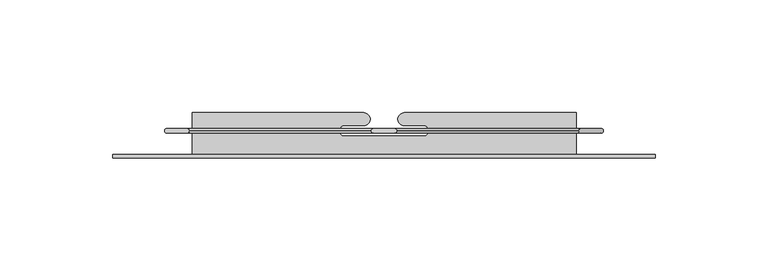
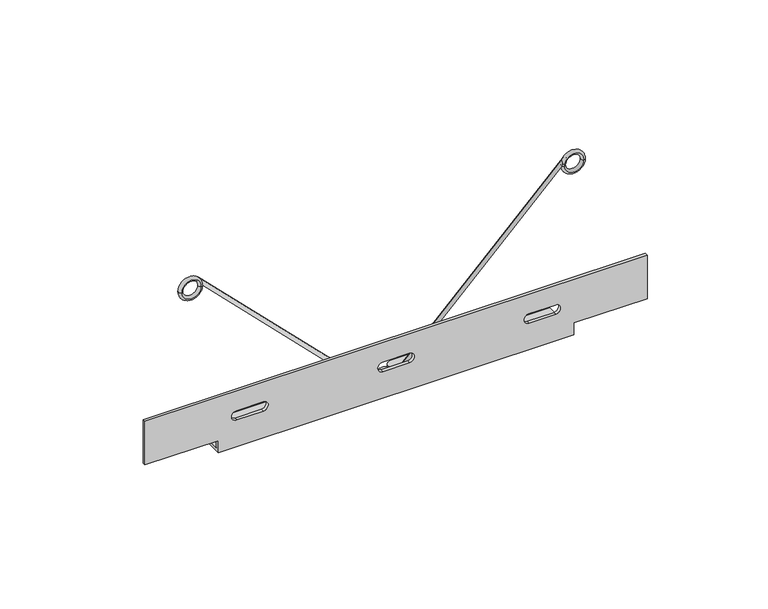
"""IFC4 building model written with IfcOpenShell, lengths in millimetres: proxy geometry, Agilis Panel Springs_Installed : Agilis Panel Springs_Installed."""

import ifcopenshell
import ifcopenshell.guid

model = None  # the IFC model being written
_history = None  # IfcOwnerHistory: only IFC2X3 demands one
_inside = {}  # id of a spatial element -> (the spatial element, [elements in it])
_under = {}  # id of a project, library or spatial element -> (it, [spatial elements below it])
_declared = {}  # id of a project -> (the project, [libraries it declares])
_typed = {}  # id of a type object -> (the type object, [elements of that type])
_made_of = {}  # id of a material, layer set ... -> (it, [elements and type objects made of it])


def new_model(schema):
    """Start an empty IFC model of exactly this schema.

    Asked for "IFC4X3", IfcOpenShell would pick the latest addendum, in which some entities
    have other attributes; the version numbers below select the first issue.
    IFC2X3 requires an IfcOwnerHistory on every rooted entity: one is made here for all.
    """
    global model, _history
    if schema == "IFC4X3":
        model = ifcopenshell.file(schema_version=(4, 3, 0, 0))
    else:
        model = ifcopenshell.file(schema=schema)
    _inside.clear()
    _under.clear()
    _declared.clear()
    _typed.clear()
    _made_of.clear()
    _history = None
    if model.schema == "IFC2X3":
        org = make("IfcOrganization", Name="unknown")
        user = make(
            "IfcPersonAndOrganization",
            ThePerson=make("IfcPerson", FamilyName="unknown"),
            TheOrganization=org,
        )
        app = make(
            "IfcApplication",
            ApplicationDeveloper=org,
            Version="unknown",
            ApplicationFullName="unknown",
            ApplicationIdentifier="unknown",
        )
        _history = make(
            "IfcOwnerHistory",
            OwningUser=user,
            OwningApplication=app,
            ChangeAction="ADDED",
            CreationDate=0,
        )
    return model


def make(cls, **values):
    """One entity of the class cls with the attributes given. An attribute that is None is left unset."""
    return model.create_entity(
        cls, **{name: value for name, value in values.items() if value is not None}
    )


def rooted(cls, **values):
    """An entity with a GlobalId (a new one), such as an element, a storey or a relation."""
    return make(cls, GlobalId=ifcopenshell.guid.new(), OwnerHistory=_history, **values)


def si_unit(unit_type, name, prefix=None):
    """IfcSIUnit, for example si_unit("LENGTHUNIT", "METRE", prefix="MILLI")."""
    return make("IfcSIUnit", UnitType=unit_type, Prefix=prefix, Name=name)


def assignment(units):
    """IfcUnitAssignment: the units of a project."""
    return None if units is None else make("IfcUnitAssignment", Units=units)


def point(xyz):
    """IfcCartesianPoint."""
    return None if xyz is None else make("IfcCartesianPoint", Coordinates=xyz)


def direction(xyz):
    """IfcDirection."""
    return None if xyz is None else make("IfcDirection", DirectionRatios=xyz)


def frame(location, z_axis=None, x_axis=None):
    """IfcAxis2Placement3D, a coordinate frame: its origin and axes. An axis left out is left unset."""
    return make(
        "IfcAxis2Placement3D",
        Location=point(location),
        Axis=direction(z_axis),
        RefDirection=direction(x_axis),
    )


def frame_2d(location, x_axis=None):
    """IfcAxis2Placement2D, a coordinate frame in the plane: its origin and x axis."""
    return make(
        "IfcAxis2Placement2D", Location=point(location), RefDirection=direction(x_axis)
    )


def origin():
    """The frame at (0, 0, 0) with its axes left unset."""
    return frame((0.0, 0.0, 0.0))


def place(relative_to, where):
    """IfcLocalPlacement: puts the frame where relative to a parent placement (None: the world)."""
    return make(
        "IfcLocalPlacement", PlacementRelTo=relative_to, RelativePlacement=where
    )


def context(
    kind, dimensions, precision=None, world=None, true_north=None, identifier=None
):
    """IfcGeometricRepresentationContext, for example the 3D "Model" context."""
    return make(
        "IfcGeometricRepresentationContext",
        ContextIdentifier=identifier,
        ContextType=kind,
        CoordinateSpaceDimension=dimensions,
        Precision=precision,
        WorldCoordinateSystem=world,
        TrueNorth=true_north,
    )


def project(units=None, contexts=None):
    """IfcProject with its units and contexts."""
    return rooted(
        "IfcProject",
        Name="project",
        RepresentationContexts=contexts,
        UnitsInContext=assignment(units),
    )


def spatial(cls, under=None, at=None, **own):
    """A site, building, storey or space (cls), placed at a placement, below another one or the project."""
    s = rooted(cls, ObjectPlacement=at, **own)
    if under is not None:
        _under.setdefault(under.id(), (under, []))[1].append(s)
    return s


def polyline(points):
    """IfcPolyline through the points."""
    return make("IfcPolyline", Points=[point(p) for p in points])


def circle_curve(where, radius):
    """IfcCircle in the frame where."""
    return make("IfcCircle", Position=where, Radius=radius)


def ellipse_curve(where, semi_axis1, semi_axis2):
    """IfcEllipse in the frame where."""
    return make(
        "IfcEllipse", Position=where, SemiAxis1=semi_axis1, SemiAxis2=semi_axis2
    )


def trimmed(basis, trim1, trim2, sense, master):
    """IfcTrimmedCurve: the piece of a basis curve between two trims."""
    return make(
        "IfcTrimmedCurve",
        BasisCurve=basis,
        Trim1=trim1,
        Trim2=trim2,
        SenseAgreement=sense,
        MasterRepresentation=master,
    )


def segment(curve, same_sense, transition):
    """IfcCompositeCurveSegment."""
    return make(
        "IfcCompositeCurveSegment",
        Transition=transition,
        SameSense=same_sense,
        ParentCurve=curve,
    )


def composite_curve(segments, self_intersect=None):
    """IfcCompositeCurve: segments joined end to end."""
    return make("IfcCompositeCurve", Segments=segments, SelfIntersect=self_intersect)


def outline(outer, holes=None, kind="AREA"):
    """IfcArbitraryClosedProfileDef: a profile drawn as a closed curve; with holes, ...WithVoids."""
    if holes is None:
        return make("IfcArbitraryClosedProfileDef", ProfileType=kind, OuterCurve=outer)
    return make(
        "IfcArbitraryProfileDefWithVoids",
        ProfileType=kind,
        OuterCurve=outer,
        InnerCurves=holes,
    )


def extrude(swept, where, along, depth):
    """IfcExtrudedAreaSolid: the profile swept, set in the frame where, extruded along a direction by depth."""
    return make(
        "IfcExtrudedAreaSolid",
        SweptArea=swept,
        Position=where,
        ExtrudedDirection=direction(along),
        Depth=depth,
    )


def shape(context_of_items, identifier, shape_type, items):
    """IfcShapeRepresentation: the items that make up one representation, for example the "Body"."""
    return make(
        "IfcShapeRepresentation",
        ContextOfItems=context_of_items,
        RepresentationIdentifier=identifier,
        RepresentationType=shape_type,
        Items=items,
    )


def source(mapping_origin, context_of_items, identifier, shape_type, items):
    """IfcRepresentationMap: a shape defined once, which mapped items show again and again."""
    return make(
        "IfcRepresentationMap",
        MappingOrigin=mapping_origin,
        MappedRepresentation=shape(context_of_items, identifier, shape_type, items),
    )


def transform(
    local_origin,
    x_axis=None,
    y_axis=None,
    z_axis=None,
    scale=None,
    scale2=None,
    scale3=None,
    uniform=True,
):
    """IfcCartesianTransformationOperator3D, or its non-uniform kind. x_axis, y_axis, z_axis: its Axis1, 2, 3."""
    if uniform:
        return make(
            "IfcCartesianTransformationOperator3D",
            Axis1=direction(x_axis),
            Axis2=direction(y_axis),
            LocalOrigin=point(local_origin),
            Scale=scale,
            Axis3=direction(z_axis),
        )
    return make(
        "IfcCartesianTransformationOperator3DnonUniform",
        Axis1=direction(x_axis),
        Axis2=direction(y_axis),
        LocalOrigin=point(local_origin),
        Scale=scale,
        Axis3=direction(z_axis),
        Scale2=scale2,
        Scale3=scale3,
    )


def mapped(mapping_source, mapping_target):
    """IfcMappedItem: shows the shape of a source again, moved by a transform."""
    return make(
        "IfcMappedItem", MappingSource=mapping_source, MappingTarget=mapping_target
    )


def made_of(thing, what):
    """Note that an element or type object is made of a material, layer set ...; save() writes the relation."""
    if what is not None:
        _made_of.setdefault(what.id(), (what, []))[1].append(thing)
    return thing


def element(
    cls,
    number,
    at=None,
    inside=None,
    cuts=None,
    type_object=None,
    material=None,
    context=None,
    identifier="Body",
    shape_type=None,
    held_by="IfcProductDefinitionShape",
    body=None,
    shapes=None,
    **own,
):
    """One element of the class cls, such as IfcWall. Its Tag is "e" and its number.

    at: its placement. inside: the storey or other place that contains it. cuts: it is an
    opening in that element (IfcRelVoidsElement). A single representation is given by context,
    identifier, shape_type and body (its items); several are given by shapes. held_by: the class
    of the entity that holds the representations. save() writes the other relations.
    """
    e = rooted(cls, Tag="e%d" % number, ObjectPlacement=at, **own)
    if body is not None:
        shapes = [shape(context, identifier, shape_type, body)]
    if shapes is not None:
        e.Representation = make(held_by, Representations=shapes)
    if inside is not None:
        _inside.setdefault(inside.id(), (inside, []))[1].append(e)
    if cuts is not None:
        rooted(
            "IfcRelVoidsElement", RelatingBuildingElement=cuts, RelatedOpeningElement=e
        )
    if type_object is not None:
        _typed.setdefault(type_object.id(), (type_object, []))[1].append(e)
    return made_of(e, material)


def aggregate(whole, parts):
    """IfcRelAggregates: a whole, such as a stair, and the parts it consists of."""
    return rooted("IfcRelAggregates", RelatingObject=whole, RelatedObjects=parts)


def save(model, path):
    """Write the relations noted so far, then the file.

    IfcRelAggregates (storeys below a building ...), IfcRelContainedInSpatialStructure (elements
    in a storey), IfcRelDefinesByType, IfcRelAssociatesMaterial and IfcRelDeclares: one each for
    every whole, place, type object, material and project.
    """
    for whole, parts in _under.values():
        aggregate(whole, parts)
    for where, things in _inside.values():
        rooted(
            "IfcRelContainedInSpatialStructure",
            RelatedElements=things,
            RelatingStructure=where,
        )
    for kind, things in _typed.values():
        rooted("IfcRelDefinesByType", RelatedObjects=things, RelatingType=kind)
    for what, things in _made_of.values():
        rooted("IfcRelAssociatesMaterial", RelatedObjects=things, RelatingMaterial=what)
    for by, libraries in _declared.values():
        rooted("IfcRelDeclares", RelatingContext=by, RelatedDefinitions=libraries)
    model.write(path)


def plane_surface(at):
    """IfcPlane: the flat surface through the origin of the frame at, square to its z axis."""
    return make("IfcPlane", Position=at)


def cylinder_surface(at, radius):
    """IfcCylindricalSurface: all points at the distance radius from the z axis of the frame at."""
    return make("IfcCylindricalSurface", Position=at, Radius=radius)


def revolved_surface(curve, axis_point, axis_direction):
    """IfcSurfaceOfRevolution: the curve turned about the line through axis_point along axis_direction."""
    return make(
        "IfcSurfaceOfRevolution",
        SweptCurve=make("IfcArbitraryOpenProfileDef", ProfileType="CURVE", Curve=curve),
        AxisPosition=make("IfcAxis1Placement", Location=point(axis_point), Axis=direction(axis_direction)),
    )


def advanced_brep(points, edges, surfaces, faces):
    """IfcAdvancedBrep: a solid bounded by faces that lie on surfaces and meet in shared edges.

    An edge is (start, end): straight between two places in points (the first is 0);
    or (start, end, curve); or (start, end, curve, False) where it runs against its curve.
    A face is (place in surfaces, loops), or (place, loops, False) where it looks against
    its surface's normal. A loop lists edges by number (the first is 1), with a minus sign
    where the edge is run from its end to its start. The first loop is the outer one.
    """
    corners = [point(p) for p in points]
    vertices = [make("IfcVertexPoint", VertexGeometry=c) for c in corners]
    made = []
    for start, end, *more in edges:
        made.append(
            make(
                "IfcEdgeCurve",
                EdgeStart=vertices[start],
                EdgeEnd=vertices[end],
                EdgeGeometry=more[0] if more else make("IfcPolyline", Points=[corners[start], corners[end]]),
                SameSense=more[1] if len(more) > 1 else True,
            )
        )
    hull = []
    for where, loops, *sense in faces:
        bounds = []
        for j, loop in enumerate(loops):
            ring = [make("IfcOrientedEdge", EdgeElement=made[abs(k) - 1], Orientation=k > 0) for k in loop]
            bounds.append(
                make(
                    "IfcFaceOuterBound" if j == 0 else "IfcFaceBound",
                    Bound=make("IfcEdgeLoop", EdgeList=ring),
                    Orientation=True,
                )
            )
        hull.append(make("IfcAdvancedFace", Bounds=bounds, FaceSurface=surfaces[where], SameSense=sense[0] if sense else True))
    return make("IfcAdvancedBrep", Outer=make("IfcClosedShell", CfsFaces=hull))


def generic_models_51035367(model_context):
    return source(origin(), model_context, "Body", "SolidModel", [
        advanced_brep(
        [(-120.0, -10.45, 28.0), (120.0, -10.45, 28.0), (120.0, -10.45, 6.0), (85.0, -10.45, 6.0), (85.0, -10.45, 1.5), (-85.0, -10.45, 1.5), (-85.0, -10.45, 6.0), (-120.0, -10.45, 6.0), (-6.35, -10.45, 18.1), (-6.35, -10.45, 13.4), (6.35, -10.45, 13.4), (6.35, -10.45, 18.1), (-76.2, -10.45, 18.1), (-76.2, -10.45, 13.4), (-63.5, -10.45, 13.4), (-63.5, -10.45, 18.1), (76.2, -10.45, 18.1), (63.5, -10.45, 18.1), (63.5, -10.45, 13.4), (76.2, -10.45, 13.4), (120.0, -11.95, 28.0), (-120.0, -11.95, 28.0), (-120.0, -11.95, 6.0), (-85.0, -11.95, 6.0), (-85.0, -11.95, 0.0), (85.0, -11.95, 0.0), (85.0, -11.95, 6.0), (120.0, -11.95, 6.0), (-6.35, -11.95, 13.4), (-6.35, -11.95, 18.1), (6.35, -11.95, 18.1), (6.35, -11.95, 13.4), (-76.2, -11.95, 13.4), (-76.2, -11.95, 18.1), (-63.5, -11.95, 18.1), (-63.5, -11.95, 13.4), (63.5, -11.95, 18.1), (76.2, -11.95, 18.1), (76.2, -11.95, 13.4), (63.5, -11.95, 13.4), (-85.0, 8.05, 1.5), (85.0, 8.05, 1.5), (9.0, 8.05, 1.5), (9.0, 2.35, 1.5), (17.5, 2.35, 1.5), (17.5, -2.35, 1.5), (-17.5, -2.35, 1.5), (-17.5, 2.35, 1.5), (-9.0, 2.35, 1.5), (-9.0, 8.05, 1.5), (85.0, 8.05, 0.0), (-85.0, 8.05, 0.0), (-9.0, 8.05, 0.0), (-9.0, 2.35, 0.0), (-17.5, 2.35, 0.0), (-17.5, -2.35, 0.0), (17.5, -2.35, 0.0), (17.5, 2.35, 0.0), (9.0, 2.35, 0.0), (9.0, 8.05, 0.0)],
        [
            (0, 1),
            (1, 2),
            (2, 3),
            (3, 4),
            (4, 5),
            (5, 6),
            (6, 7),
            (7, 0),
            (8, 9, circle_curve(frame((-6.35, -10.45, 15.75), z_axis=(0.0, -1.0, 0.0), x_axis=(1.0, 0.0, 0.0)), 2.35)),
            (9, 10),
            (10, 11, circle_curve(frame((6.35, -10.45, 15.75), z_axis=(0.0, -1.0, 0.0), x_axis=(1.0, 0.0, 0.0)), 2.35)),
            (11, 8),
            (12, 13, circle_curve(frame((-76.2, -10.45, 15.75), z_axis=(0.0, -1.0, 0.0), x_axis=(1.0, 0.0, 0.0)), 2.35)),
            (13, 14),
            (14, 15, circle_curve(frame((-63.5, -10.45, 15.75), z_axis=(0.0, -1.0, 0.0), x_axis=(1.0, 0.0, 0.0)), 2.35)),
            (15, 12),
            (16, 17),
            (17, 18, circle_curve(frame((63.5, -10.45, 15.75), z_axis=(0.0, -1.0, 0.0), x_axis=(-1.0, 0.0, 0.0)), 2.35)),
            (18, 19),
            (19, 16, circle_curve(frame((76.2, -10.45, 15.75), z_axis=(0.0, -1.0, 0.0), x_axis=(-1.0, 0.0, 0.0)), 2.35)),
            (20, 21),
            (21, 22),
            (22, 23),
            (23, 24),
            (24, 25),
            (25, 26),
            (26, 27),
            (27, 20),
            (28, 29, circle_curve(frame((-6.35, -11.95, 15.75), z_axis=(0.0, 1.0, 0.0), x_axis=(1.0, 0.0, 0.0)), 2.35)),
            (29, 30),
            (30, 31, circle_curve(frame((6.35, -11.95, 15.75), z_axis=(0.0, 1.0, 0.0), x_axis=(1.0, 0.0, 0.0)), 2.35)),
            (31, 28),
            (32, 33, circle_curve(frame((-76.2, -11.95, 15.75), z_axis=(0.0, 1.0, 0.0), x_axis=(1.0, 0.0, 0.0)), 2.35)),
            (33, 34),
            (34, 35, circle_curve(frame((-63.5, -11.95, 15.75), z_axis=(0.0, 1.0, 0.0), x_axis=(1.0, 0.0, 0.0)), 2.35)),
            (35, 32),
            (36, 37),
            (37, 38, circle_curve(frame((76.2, -11.95, 15.75), z_axis=(0.0, 1.0, 0.0), x_axis=(-1.0, 0.0, 0.0)), 2.35)),
            (38, 39),
            (39, 36, circle_curve(frame((63.5, -11.95, 15.75), z_axis=(0.0, 1.0, 0.0), x_axis=(-1.0, 0.0, 0.0)), 2.35)),
            (1, 20),
            (27, 2),
            (0, 21),
            (7, 22),
            (40, 5),
            (4, 41),
            (41, 42),
            (42, 43, circle_curve(frame((9.0, 5.2, 1.5), z_axis=(0.0, 0.0, 1.0), x_axis=(1.0, 0.0, 0.0)), 2.85)),
            (43, 44),
            (44, 45, circle_curve(frame((17.5, 0.0, 1.5), z_axis=(0.0, 0.0, -1.0), x_axis=(1.0, 0.0, 0.0)), 2.35)),
            (45, 46),
            (46, 47, circle_curve(frame((-17.5, 0.0, 1.5), z_axis=(0.0, 0.0, -1.0), x_axis=(-1.0, 0.0, 0.0)), 2.35)),
            (47, 48),
            (48, 49, circle_curve(frame((-9.0, 5.2, 1.5), z_axis=(0.0, 0.0, 1.0), x_axis=(-1.0, 0.0, 0.0)), 2.85)),
            (49, 40),
            (50, 25),
            (24, 51),
            (51, 52),
            (52, 53, circle_curve(frame((-9.0, 5.2, 0.0), z_axis=(0.0, 0.0, -1.0), x_axis=(-1.0, 0.0, 0.0)), 2.85)),
            (53, 54),
            (54, 55, circle_curve(frame((-17.5, 0.0, 0.0), z_axis=(0.0, 0.0, 1.0), x_axis=(-1.0, 0.0, 0.0)), 2.35)),
            (55, 56),
            (56, 57, circle_curve(frame((17.5, 0.0, 0.0), z_axis=(0.0, 0.0, 1.0), x_axis=(1.0, 0.0, 0.0)), 2.35)),
            (57, 58),
            (58, 59, circle_curve(frame((9.0, 5.2, 0.0), z_axis=(0.0, 0.0, -1.0), x_axis=(1.0, 0.0, 0.0)), 2.85)),
            (59, 50),
            (41, 50),
            (59, 42),
            (51, 40),
            (49, 52),
            (23, 6),
            (3, 26),
            (48, 53),
            (47, 54),
            (46, 55),
            (45, 56),
            (44, 57),
            (43, 58),
            (8, 29),
            (28, 9),
            (31, 10),
            (30, 11),
            (12, 33),
            (32, 13),
            (35, 14),
            (34, 15),
            (16, 37),
            (36, 17),
            (39, 18),
            (38, 19),
        ],
        [
            plane_surface(frame((-85.0, -10.45, 1.5), z_axis=(0.0, 1.0, 0.0), x_axis=(-1.0, 0.0, 0.0))),
            plane_surface(frame((-85.0, -11.95, 1.5), z_axis=(0.0, -1.0, 0.0), x_axis=(1.0, 0.0, 0.0))),
            plane_surface(frame((120.0, -11.95, 1.5), z_axis=(1.0, 0.0, 0.0), x_axis=(0.0, 1.0, 0.0))),
            plane_surface(frame((120.0, -11.95, 28.0), z_axis=(0.0, 0.0, 1.0), x_axis=(0.0, 1.0, 0.0))),
            plane_surface(frame((-120.0, -11.95, 28.0), z_axis=(-1.0, 0.0, 0.0), x_axis=(0.0, 1.0, 0.0))),
            plane_surface(frame((-85.0, 8.05, 1.5), z_axis=(0.0, 0.0, 1.0), x_axis=(-1.0, 0.0, 0.0))),
            plane_surface(frame((-85.0, 8.05, 0.0), z_axis=(0.0, 0.0, -1.0), x_axis=(1.0, 0.0, 0.0))),
            plane_surface(frame((85.0, 8.05, 1.5), z_axis=(0.0, 1.0, 0.0), x_axis=(0.0, 0.0, -1.0))),
            plane_surface(frame((-85.0, 8.05, 1.5), z_axis=(-1.0, 0.0, 0.0), x_axis=(0.0, 0.0, -1.0))),
            plane_surface(frame((85.0, -11.95, 1.5), z_axis=(1.0, 0.0, 0.0), x_axis=(0.0, 0.0, -1.0))),
            plane_surface(frame((120.0, -13.45, 6.0), z_axis=(0.0, 0.0, -1.0), x_axis=(0.0, 1.0, 0.0))),
            plane_surface(frame((-85.0, -13.45, 6.0), z_axis=(0.0, 0.0, -1.0), x_axis=(0.0, 1.0, 0.0))),
            cylinder_surface(frame((-9.0, 5.2, 0.0), z_axis=(0.0, 0.0, -1.0), x_axis=(-1.0, 0.0, 0.0)), 2.85),
            plane_surface(frame((-9.0, 2.35, 3.0), z_axis=(0.0, -1.0, 0.0), x_axis=(0.0, 0.0, -1.0))),
            revolved_surface(polyline([(-19.85, 0.0, 1.5), (-19.85, 0.0, 0.0)]), (-17.5, 0.0, 0.0), (0.0, 0.0, 1.0)),
            plane_surface(frame((-17.5, -2.35, 3.0), z_axis=(0.0, 1.0, 0.0), x_axis=(0.0, 0.0, -1.0))),
            revolved_surface(polyline([(19.85, 0.0, 1.5), (19.85, 0.0, 0.0)]), (17.5, 0.0, 0.0), (0.0, 0.0, 1.0)),
            plane_surface(frame((17.5, 2.35, 3.0), z_axis=(0.0, -1.0, 0.0), x_axis=(0.0, 0.0, -1.0))),
            cylinder_surface(frame((9.0, 5.2, 0.0), z_axis=(0.0, 0.0, -1.0), x_axis=(1.0, 0.0, 0.0)), 2.85),
            revolved_surface(polyline([(-3.9999999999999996, -11.95, 15.75), (-3.9999999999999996, -10.45, 15.75)]), (-6.35, -10.45, 15.75), (0.0, -1.0, 0.0)),
            plane_surface(frame((-6.35, -13.45, 13.4), z_axis=(0.0, 0.0, 1.0), x_axis=(0.0, 1.0, 0.0))),
            revolved_surface(polyline([(8.7, -11.95, 15.75), (8.7, -10.45, 15.75)]), (6.35, -10.45, 15.75), (0.0, -1.0, 0.0)),
            plane_surface(frame((6.35, -13.45, 18.1), z_axis=(0.0, 0.0, -1.0), x_axis=(0.0, 1.0, 0.0))),
            revolved_surface(polyline([(-73.85000000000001, -11.95, 15.75), (-73.85000000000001, -10.45, 15.75)]), (-76.2, -10.45, 15.75), (0.0, -1.0, 0.0)),
            plane_surface(frame((-76.2, -13.45, 13.4), z_axis=(0.0, 0.0, 1.0), x_axis=(0.0, 1.0, 0.0))),
            revolved_surface(polyline([(-61.15, -11.95, 15.75), (-61.15, -10.45, 15.75)]), (-63.5, -10.45, 15.75), (0.0, -1.0, 0.0)),
            plane_surface(frame((-63.5, -13.45, 18.1), z_axis=(0.0, 0.0, -1.0), x_axis=(0.0, 1.0, 0.0))),
            plane_surface(frame((76.2, -13.45, 18.1), z_axis=(0.0, 0.0, -1.0), x_axis=(0.0, 1.0, 0.0))),
            revolved_surface(polyline([(61.15, -11.95, 15.75), (61.15, -10.45, 15.75)]), (63.5, -10.45, 15.75), (0.0, -1.0, 0.0)),
            plane_surface(frame((63.5, -13.45, 13.4), z_axis=(0.0, 0.0, 1.0), x_axis=(0.0, 1.0, 0.0))),
            revolved_surface(polyline([(73.85000000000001, -11.95, 15.75), (73.85000000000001, -10.45, 15.75)]), (76.2, -10.45, 15.75), (0.0, -1.0, 0.0)),
        ],
        [
            (0, [[1, 2, 3, 4, 5, 6, 7, 8], [9, 10, 11, 12], [13, 14, 15, 16], [17, 18, 19, 20]]),
            (1, [[21, 22, 23, 24, 25, 26, 27, 28], [29, 30, 31, 32], [33, 34, 35, 36], [37, 38, 39, 40]]),
            (2, [[41, -28, 42, -2]]),
            (3, [[-1, 43, -21, -41]]),
            (4, [[-43, -8, 44, -22]]),
            (5, [[45, -5, 46, 47, 48, 49, 50, 51, 52, 53, 54, 55]]),
            (6, [[56, -25, 57, 58, 59, 60, 61, 62, 63, 64, 65, 66]]),
            (7, [[67, -66, 68, -47]]),
            (7, [[69, -55, 70, -58]]),
            (8, [[-57, -24, 71, -6, -45, -69]]),
            (9, [[-56, -67, -46, -4, 72, -26]]),
            (10, [[-72, -3, -42, -27]]),
            (11, [[-71, -23, -44, -7]]),
            (12, [[73, -59, -70, -54]]),
            (13, [[-73, -53, 74, -60]]),
            (14, [[-74, -52, 75, -61]]),
            (15, [[-75, -51, 76, -62]]),
            (16, [[-76, -50, 77, -63]]),
            (17, [[-77, -49, 78, -64]]),
            (18, [[-78, -48, -68, -65]]),
            (19, [[79, -29, 80, -9]]),
            (20, [[-80, -32, 81, -10]]),
            (21, [[-81, -31, 82, -11]]),
            (22, [[-79, -12, -82, -30]]),
            (23, [[83, -33, 84, -13]]),
            (24, [[-84, -36, 85, -14]]),
            (25, [[-85, -35, 86, -15]]),
            (26, [[-83, -16, -86, -34]]),
            (27, [[87, -37, 88, -17]]),
            (28, [[-88, -40, 89, -18]]),
            (29, [[-89, -39, 90, -19]]),
            (30, [[-87, -20, -90, -38]]),
        ],
    ),
        advanced_brep(
        [(96.1749338, 1.0, 77.9916145), (86.6749338, 1.0, 77.9916145), (86.6749338, -1.0, 77.9916145), (96.1749338, -1.0, 77.9916145)],
        [
            (0, 1, circle_curve(frame((91.4249338, 1.0, 77.9916145), z_axis=(0.0, -1.0, 0.0), x_axis=(-1.0, 0.0, 0.0)), 4.75)),
            (1, 2, circle_curve(frame((86.6749338, 0.0, 77.9916145), z_axis=(0.0, 0.0, 1.0), x_axis=(0.0, -1.0, 0.0)), 1.0)),
            (2, 3, circle_curve(frame((91.4249338, -1.0, 77.9916145), z_axis=(0.0, 1.0, 0.0), x_axis=(-1.0, 0.0, 0.0)), 4.75)),
            (3, 0, circle_curve(frame((96.1749338, 0.0, 77.9916145), z_axis=(0.0, 0.0, 1.0), x_axis=(0.0, -1.0, 0.0)), 1.0)),
            (2, 1, circle_curve(frame((86.6749338, 0.0, 77.9916145), z_axis=(0.0, 0.0, 1.0), x_axis=(0.0, -1.0, 0.0)), 1.0)),
            (0, 3, circle_curve(frame((96.1749338, 0.0, 77.9916145), z_axis=(0.0, 0.0, 1.0), x_axis=(0.0, -1.0, 0.0)), 1.0)),
            (1, 0, circle_curve(frame((91.4249338, 1.0, 77.9916145), z_axis=(0.0, -1.0, 0.0), x_axis=(1.0, 0.0, 0.0)), 4.75)),
            (3, 2, circle_curve(frame((91.4249338, -1.0, 77.9916145), z_axis=(0.0, 1.0, 0.0), x_axis=(1.0, 0.0, 0.0)), 4.75)),
        ],
        [
            revolved_surface(trimmed(ellipse_curve(frame((86.6749338, 0.0, 77.9916145), z_axis=(0.0, 0.0, -1.0), x_axis=(0.0, -1.0, 0.0)), 1.0, 1.0), [point((86.6749338, -1.0, 77.9916145))], [point((86.6749338, 1.0, 77.9916145))], True, "CARTESIAN"), (91.4249338, 0.0, 77.9916145), (0.0, 1.0, 0.0)),
            revolved_surface(trimmed(ellipse_curve(frame((86.6749338, 0.0, 77.9916145), z_axis=(0.0, 0.0, -1.0), x_axis=(0.0, -1.0, 0.0)), 1.0, 1.0), [point((86.6749338, 1.0, 77.9916145))], [point((86.6749338, -1.0, 77.9916145))], True, "CARTESIAN"), (91.4249338, 0.0, 77.9916145), (0.0, 1.0, 0.0)),
            revolved_surface(trimmed(ellipse_curve(frame((96.1749338, 0.0, 77.9916145), z_axis=(0.0, 0.0, 1.0), x_axis=(0.0, -1.0, 0.0)), 1.0, 1.0), [point((96.1749338, -1.0, 77.9916145))], [point((96.1749338, 1.0, 77.9916145))], True, "CARTESIAN"), (91.4249338, 0.0, 77.9916145), (0.0, 1.0, 0.0)),
            revolved_surface(trimmed(ellipse_curve(frame((96.1749338, 0.0, 77.9916145), z_axis=(0.0, 0.0, 1.0), x_axis=(0.0, -1.0, 0.0)), 1.0, 1.0), [point((96.1749338, 1.0, 77.9916145))], [point((96.1749338, -1.0, 77.9916145))], True, "CARTESIAN"), (91.4249338, 0.0, 77.9916145), (0.0, 1.0, 0.0)),
        ],
        [
            (0, [[1, 2, 3, 4]]),
            (1, [[-3, 5, -1, 6]]),
            (2, [[7, -4, 8, -2]]),
            (3, [[-8, -6, -7, -5]]),
        ],
    ),
        extrude(outline(composite_curve([segment(trimmed(circle_curve(frame_2d((0.0, -1.0)), 1.0), [point((0.0, -2.0000001))], [point((0.0, 0.0))], False, "CARTESIAN"), True, "CONTINUOUS"), segment(trimmed(circle_curve(frame_2d((0.0, -1.0)), 1.0), [point((0.0, 0.0))], [point((0.0, -2.0000001))], False, "CARTESIAN"), True, "CONTINUOUS")], self_intersect=False)), frame((3.9931668, 0.0, -4.1377064), z_axis=(0.7071067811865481, 0.0, 0.7071067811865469), x_axis=(0.0, -1.0, 0.0)), (0.0, 0.0, 1.0), 120.0),
        advanced_brep(
        [(-96.1749338, -1.0, 77.9916145), (-86.6749338, -1.0, 77.9916145), (-86.6749338, 1.0, 77.9916145), (-96.1749338, 1.0, 77.9916145)],
        [
            (0, 1, circle_curve(frame((-91.4249338, -1.0, 77.9916145), z_axis=(0.0, 1.0, 0.0), x_axis=(1.0, 0.0, 0.0)), 4.75)),
            (1, 2, circle_curve(frame((-86.6749338, 0.0, 77.9916145), z_axis=(0.0, 0.0, 1.0), x_axis=(0.0, -1.0, 0.0)), 1.0)),
            (2, 3, circle_curve(frame((-91.4249338, 1.0, 77.9916145), z_axis=(0.0, -1.0, 0.0), x_axis=(1.0, 0.0, 0.0)), 4.75)),
            (3, 0, circle_curve(frame((-96.1749338, 0.0, 77.9916145), z_axis=(0.0, 0.0, 1.0), x_axis=(0.0, -1.0, 0.0)), 1.0)),
            (2, 1, circle_curve(frame((-86.6749338, 0.0, 77.9916145), z_axis=(0.0, 0.0, 1.0), x_axis=(0.0, -1.0, 0.0)), 1.0)),
            (0, 3, circle_curve(frame((-96.1749338, 0.0, 77.9916145), z_axis=(0.0, 0.0, 1.0), x_axis=(0.0, -1.0, 0.0)), 1.0)),
            (1, 0, circle_curve(frame((-91.4249338, -1.0, 77.9916145), z_axis=(0.0, 1.0, 0.0), x_axis=(-1.0, 0.0, 0.0)), 4.75)),
            (3, 2, circle_curve(frame((-91.4249338, 1.0, 77.9916145), z_axis=(0.0, -1.0, 0.0), x_axis=(-1.0, 0.0, 0.0)), 4.75)),
        ],
        [
            revolved_surface(trimmed(ellipse_curve(frame((-86.6749338, 0.0, 77.9916145), z_axis=(0.0, 0.0, -1.0), x_axis=(0.0, -1.0, 0.0)), 1.0, 1.0), [point((-86.6749338, 1.0, 77.9916145))], [point((-86.6749338, -1.0, 77.9916145))], True, "CARTESIAN"), (-91.4249338, 0.0, 77.9916145), (0.0, -1.0, 0.0)),
            revolved_surface(trimmed(ellipse_curve(frame((-86.6749338, 0.0, 77.9916145), z_axis=(0.0, 0.0, -1.0), x_axis=(0.0, -1.0, 0.0)), 1.0, 1.0), [point((-86.6749338, -1.0, 77.9916145))], [point((-86.6749338, 1.0, 77.9916145))], True, "CARTESIAN"), (-91.4249338, 0.0, 77.9916145), (0.0, -1.0, 0.0)),
            revolved_surface(trimmed(ellipse_curve(frame((-96.1749338, 0.0, 77.9916145), z_axis=(0.0, 0.0, 1.0), x_axis=(0.0, -1.0, 0.0)), 1.0, 1.0), [point((-96.1749338, 1.0, 77.9916145))], [point((-96.1749338, -1.0, 77.9916145))], True, "CARTESIAN"), (-91.4249338, 0.0, 77.9916145), (0.0, -1.0, 0.0)),
            revolved_surface(trimmed(ellipse_curve(frame((-96.1749338, 0.0, 77.9916145), z_axis=(0.0, 0.0, 1.0), x_axis=(0.0, -1.0, 0.0)), 1.0, 1.0), [point((-96.1749338, -1.0, 77.9916145))], [point((-96.1749338, 1.0, 77.9916145))], True, "CARTESIAN"), (-91.4249338, 0.0, 77.9916145), (0.0, -1.0, 0.0)),
        ],
        [
            (0, [[1, 2, 3, 4]]),
            (1, [[-3, 5, -1, 6]]),
            (2, [[7, -4, 8, -2]]),
            (3, [[-8, -6, -7, -5]]),
        ],
    ),
        extrude(outline(composite_curve([segment(trimmed(circle_curve(frame_2d((0.0, 1.0)), 1.0), [point((0.0, 2.0000001))], [point((0.0, 0.0))], False, "CARTESIAN"), True, "CONTINUOUS"), segment(trimmed(circle_curve(frame_2d((0.0, 1.0)), 1.0), [point((0.0, 0.0))], [point((0.0, 2.0000001))], False, "CARTESIAN"), True, "CONTINUOUS")], self_intersect=False)), frame((-3.9931668, 0.0, -4.1377064), z_axis=(-0.7071067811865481, 0.0, 0.7071067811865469), x_axis=(0.0, -1.0, 0.0)), (0.0, 0.0, 1.0), 120.0),
        advanced_brep(
        [(4.75, -1.0, 0.0), (-4.75, -1.0, 0.0), (-4.75, 1.0, 0.0), (4.75, 1.0, 0.0)],
        [
            (0, 1, circle_curve(frame((0.0, -1.0, 0.0), z_axis=(0.0, 1.0, 0.0), x_axis=(-1.0, 0.0, 0.0)), 4.75)),
            (1, 2, circle_curve(frame((-4.75, 0.0, 0.0), z_axis=(0.0, 0.0, -1.0), x_axis=(0.0, -1.0, 0.0)), 1.0)),
            (2, 3, circle_curve(frame((0.0, 1.0, 0.0), z_axis=(0.0, -1.0, 0.0), x_axis=(-1.0, 0.0, 0.0)), 4.75)),
            (3, 0, circle_curve(frame((4.75, 0.0, 0.0), z_axis=(0.0, 0.0, -1.0), x_axis=(0.0, -1.0, 0.0)), 1.0)),
            (2, 1, circle_curve(frame((-4.75, 0.0, 0.0), z_axis=(0.0, 0.0, -1.0), x_axis=(0.0, -1.0, 0.0)), 1.0)),
            (0, 3, circle_curve(frame((4.75, 0.0, 0.0), z_axis=(0.0, 0.0, -1.0), x_axis=(0.0, -1.0, 0.0)), 1.0)),
            (1, 0, circle_curve(frame((0.0, -1.0, 0.0), z_axis=(0.0, 1.0, 0.0), x_axis=(1.0, 0.0, 0.0)), 4.75)),
            (3, 2, circle_curve(frame((0.0, 1.0, 0.0), z_axis=(0.0, -1.0, 0.0), x_axis=(1.0, 0.0, 0.0)), 4.75)),
        ],
        [
            revolved_surface(trimmed(ellipse_curve(frame((-4.75, 0.0, 0.0), z_axis=(0.0, 0.0, 1.0), x_axis=(0.0, -1.0, 0.0)), 1.0, 1.0), [point((-4.75, 1.0, 0.0))], [point((-4.75, -1.0, 0.0))], True, "CARTESIAN"), (0.0, 0.0, 0.0), (0.0, -1.0, 0.0)),
            revolved_surface(trimmed(ellipse_curve(frame((-4.75, 0.0, 0.0), z_axis=(0.0, 0.0, 1.0), x_axis=(0.0, -1.0, 0.0)), 1.0, 1.0), [point((-4.75, -1.0, 0.0))], [point((-4.75, 1.0, 0.0))], True, "CARTESIAN"), (0.0, 0.0, 0.0), (0.0, -1.0, 0.0)),
            revolved_surface(trimmed(ellipse_curve(frame((4.75, 0.0, 0.0), z_axis=(0.0, 0.0, -1.0), x_axis=(0.0, -1.0, 0.0)), 1.0, 1.0), [point((4.75, 1.0, 0.0))], [point((4.75, -1.0, 0.0))], True, "CARTESIAN"), (0.0, 0.0, 0.0), (0.0, -1.0, 0.0)),
            revolved_surface(trimmed(ellipse_curve(frame((4.75, 0.0, 0.0), z_axis=(0.0, 0.0, -1.0), x_axis=(0.0, -1.0, 0.0)), 1.0, 1.0), [point((4.75, -1.0, 0.0))], [point((4.75, 1.0, 0.0))], True, "CARTESIAN"), (0.0, 0.0, 0.0), (0.0, -1.0, 0.0)),
        ],
        [
            (0, [[1, 2, 3, 4]]),
            (1, [[-3, 5, -1, 6]]),
            (2, [[7, -4, 8, -2]]),
            (3, [[-8, -6, -7, -5]]),
        ],
    ),
    ])


if __name__ == "__main__":
    model = new_model("IFC4")
    model_context = context("Model", 3, world=origin())
    ifc_project = project(units=[si_unit("LENGTHUNIT", "METRE", prefix="MILLI")], contexts=[model_context])
    site = spatial("IfcSite", under=ifc_project)
    building = spatial("IfcBuilding", under=site)
    placement = place(None, origin())
    generic_models_shape = generic_models_51035367(model_context)
    element("IfcBuildingElementProxy", 1, Name="Agilis Panel Springs_Installed : Agilis Panel Springs_Installed", ObjectType="Agilis Panel Springs_Installed : Agilis Panel Springs_Installed", at=placement, inside=building, context=model_context, shape_type="MappedRepresentation", body=[
        mapped(generic_models_shape, transform((0.0, 0.0, 0.0), x_axis=(1.0, 0.0, 0.0), y_axis=(0.0, 1.0, 0.0), z_axis=(0.0, 0.0, 1.0))),
    ])
    save(model, "model.ifc")
